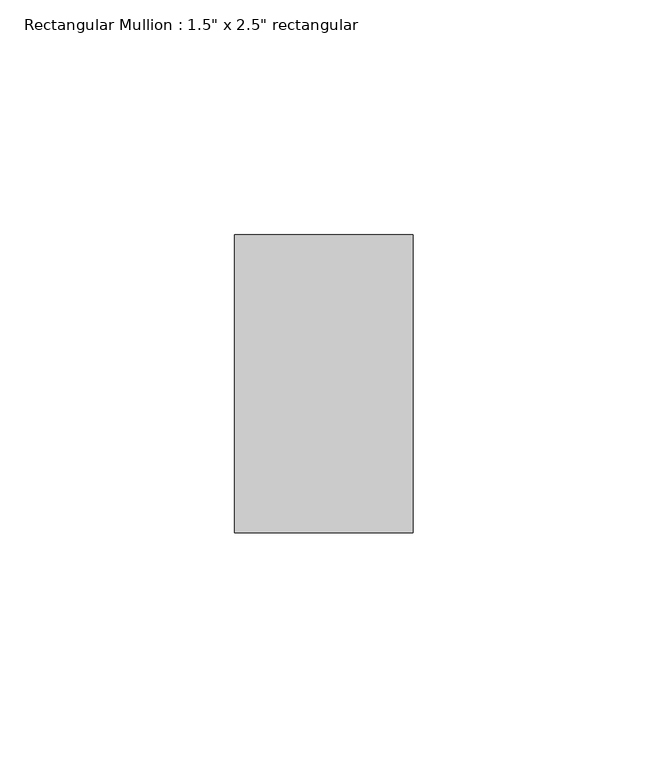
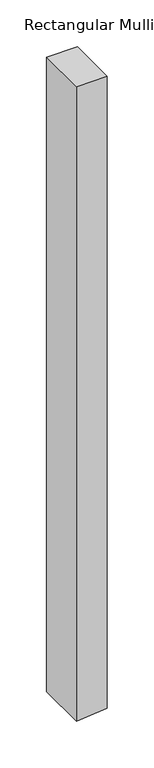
"""IFC4 building model written with IfcOpenShell, lengths in millimetres: member geometry."""

from ifc_helpers import new_model, si_unit, frame, origin, place, context, project, spatial, polyline, outline, extrude, source, transform, mapped, element, save


def member_c2a2f73e(model_context):
    return source(origin(), model_context, "Body", "SweptSolid", [
        extrude(outline(polyline([(0.0, 19.05), (0.0, -19.05), (-827.3562448, -19.05), (-825.9445957, -5.6555514), (-824.1294711, 19.05), (0.0, 19.05)])), frame((0.0, -31.75, 0.0), z_axis=(0.0, 1.0, 0.0), x_axis=(0.0, 0.0, 1.0)), (0.0, 0.0, 1.0), 63.5),
    ])


if __name__ == "__main__":
    model = new_model("IFC4")
    model_context = context("Model", 3, world=origin())
    ifc_project = project(units=[si_unit("LENGTHUNIT", "METRE", prefix="MILLI")], contexts=[model_context])
    site = spatial("IfcSite", under=ifc_project)
    building = spatial("IfcBuilding", under=site)
    placement = place(None, origin())
    member_shape = member_c2a2f73e(model_context)
    element("IfcMember", 1, ObjectType="Rectangular Mullion : 1.5\" x 2.5\" rectangular", at=placement, inside=building, context=model_context, shape_type="MappedRepresentation", body=[
        mapped(member_shape, transform((0.0, 0.0, 0.0), x_axis=(1.0, 0.0, 0.0), y_axis=(0.0, 1.0, 0.0), z_axis=(0.0, 0.0, 1.0))),
    ])
    save(model, "model.ifc")
